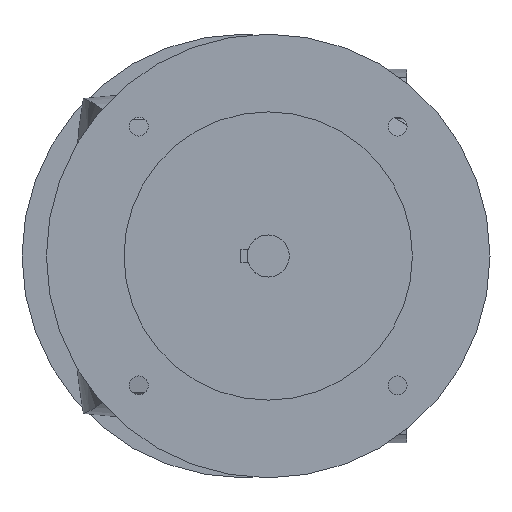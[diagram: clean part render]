
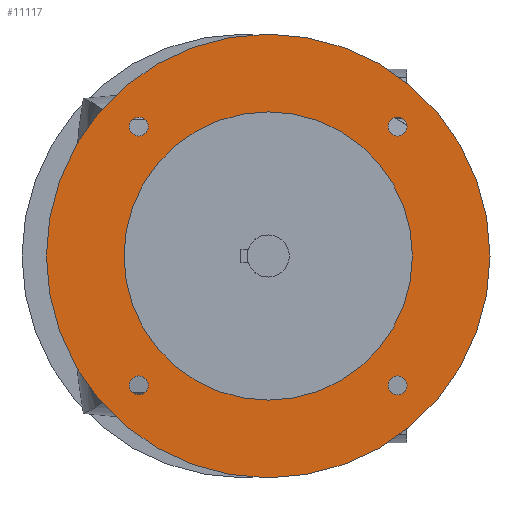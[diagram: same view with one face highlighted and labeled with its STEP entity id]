
A CAD part, left-side view. The second image highlights one B-rep face of the part: STEP entity #11117.
In plain terms, the highlighted planar face has unit normal (-1, 0, 0).
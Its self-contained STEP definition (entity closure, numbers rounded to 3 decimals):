
#2878=CARTESIAN_POINT('',(-124.5,137.336,-58.336));
#2879=DIRECTION('',(1.,0.,0.));
#2880=DIRECTION('',(0.,-1.,0.));
#2881=AXIS2_PLACEMENT_3D('',#2878,#2879,#2880);
#2883=CARTESIAN_POINT('',(-124.5,137.336,-58.336));
#2884=DIRECTION('',(1.,0.,0.));
#2885=DIRECTION('',(0.,1.,0.));
#2886=AXIS2_PLACEMENT_3D('',#2883,#2884,#2885);
#2888=CARTESIAN_POINT('',(-124.5,20.664,-58.336));
#2889=DIRECTION('',(1.,0.,0.));
#2890=DIRECTION('',(0.,-1.,0.));
#2891=AXIS2_PLACEMENT_3D('',#2888,#2889,#2890);
#2893=CARTESIAN_POINT('',(-124.5,20.664,-58.336));
#2894=DIRECTION('',(1.,0.,0.));
#2895=DIRECTION('',(0.,1.,0.));
#2896=AXIS2_PLACEMENT_3D('',#2893,#2894,#2895);
#2898=CARTESIAN_POINT('',(-124.5,20.664,58.336));
#2899=DIRECTION('',(1.,0.,0.));
#2900=DIRECTION('',(0.,-1.,0.));
#2901=AXIS2_PLACEMENT_3D('',#2898,#2899,#2900);
#2903=CARTESIAN_POINT('',(-124.5,20.664,58.336));
#2904=DIRECTION('',(1.,0.,0.));
#2905=DIRECTION('',(0.,1.,0.));
#2906=AXIS2_PLACEMENT_3D('',#2903,#2904,#2905);
#2908=CARTESIAN_POINT('',(-124.5,137.336,58.336));
#2909=DIRECTION('',(1.,0.,0.));
#2910=DIRECTION('',(0.,-1.,0.));
#2911=AXIS2_PLACEMENT_3D('',#2908,#2909,#2910);
#2913=CARTESIAN_POINT('',(-124.5,137.336,58.336));
#2914=DIRECTION('',(1.,0.,0.));
#2915=DIRECTION('',(0.,1.,0.));
#2916=AXIS2_PLACEMENT_3D('',#2913,#2914,#2915);
#2918=CARTESIAN_POINT('',(-124.5,79.,0.));
#2919=DIRECTION('',(1.,0.,0.));
#2920=DIRECTION('',(0.,-1.,0.));
#2921=AXIS2_PLACEMENT_3D('',#2918,#2919,#2920);
#2923=CARTESIAN_POINT('',(-124.5,79.,0.));
#2924=DIRECTION('',(1.,0.,0.));
#2925=DIRECTION('',(0.,1.,0.));
#2926=AXIS2_PLACEMENT_3D('',#2923,#2924,#2925);
#2928=CARTESIAN_POINT('',(-124.5,79.,0.));
#2929=DIRECTION('',(-1.,0.,0.));
#2930=DIRECTION('',(0.,-1.,0.));
#2931=AXIS2_PLACEMENT_3D('',#2928,#2929,#2930);
#2933=CARTESIAN_POINT('',(-124.5,79.,0.));
#2934=DIRECTION('',(-1.,0.,0.));
#2935=DIRECTION('',(0.,1.,0.));
#2936=AXIS2_PLACEMENT_3D('',#2933,#2934,#2935);
#6684=CARTESIAN_POINT('',(-124.5,179.,0.));
#6685=VERTEX_POINT('',#6684);
#6686=CARTESIAN_POINT('',(-124.5,-21.,0.));
#6687=VERTEX_POINT('',#6686);
#6688=CARTESIAN_POINT('',(-124.5,14.,0.));
#6689=CARTESIAN_POINT('',(-124.5,144.,0.));
#6690=VERTEX_POINT('',#6688);
#6691=VERTEX_POINT('',#6689);
#7154=CARTESIAN_POINT('',(-124.5,133.086,58.336));
#7155=CARTESIAN_POINT('',(-124.5,141.586,58.336));
#7156=VERTEX_POINT('',#7154);
#7157=VERTEX_POINT('',#7155);
#7158=CARTESIAN_POINT('',(-124.5,16.414,58.336));
#7159=CARTESIAN_POINT('',(-124.5,24.914,58.336));
#7160=VERTEX_POINT('',#7158);
#7161=VERTEX_POINT('',#7159);
#7162=CARTESIAN_POINT('',(-124.5,16.414,-58.336));
#7163=CARTESIAN_POINT('',(-124.5,24.914,-58.336));
#7164=VERTEX_POINT('',#7162);
#7165=VERTEX_POINT('',#7163);
#7166=CARTESIAN_POINT('',(-124.5,133.086,-58.336));
#7167=CARTESIAN_POINT('',(-124.5,141.586,-58.336));
#7168=VERTEX_POINT('',#7166);
#7169=VERTEX_POINT('',#7167);
#11077=CARTESIAN_POINT('',(-124.5,79.,0.));
#11078=DIRECTION('',(1.,0.,0.));
#11079=DIRECTION('',(0.,-1.,0.));
#11080=AXIS2_PLACEMENT_3D('',#11077,#11078,#11079);
#11081=PLANE('',#11080);
#11083=ORIENTED_EDGE('',*,*,#11082,.T.);
#11085=ORIENTED_EDGE('',*,*,#11084,.T.);
#11086=EDGE_LOOP('',(#11083,#11085));
#11087=FACE_OUTER_BOUND('',#11086,.F.);
#11088=ORIENTED_EDGE('',*,*,#11067,.F.);
#11090=ORIENTED_EDGE('',*,*,#11089,.F.);
#11091=EDGE_LOOP('',(#11088,#11090));
#11092=FACE_BOUND('',#11091,.F.);
#11094=ORIENTED_EDGE('',*,*,#11093,.F.);
#11096=ORIENTED_EDGE('',*,*,#11095,.F.);
#11097=EDGE_LOOP('',(#11094,#11096));
#11098=FACE_BOUND('',#11097,.F.);
#11100=ORIENTED_EDGE('',*,*,#11099,.F.);
#11102=ORIENTED_EDGE('',*,*,#11101,.F.);
#11103=EDGE_LOOP('',(#11100,#11102));
#11104=FACE_BOUND('',#11103,.F.);
#11106=ORIENTED_EDGE('',*,*,#11105,.F.);
#11108=ORIENTED_EDGE('',*,*,#11107,.F.);
#11109=EDGE_LOOP('',(#11106,#11108));
#11110=FACE_BOUND('',#11109,.F.);
#11112=ORIENTED_EDGE('',*,*,#11111,.T.);
#11114=ORIENTED_EDGE('',*,*,#11113,.T.);
#11115=EDGE_LOOP('',(#11112,#11114));
#11116=FACE_BOUND('',#11115,.F.);
#11117=ADVANCED_FACE('',(#11087,#11092,#11098,#11104,#11110,#11116),#11081,.F.);
#2882=CIRCLE('',#2881,4.25);
#2887=CIRCLE('',#2886,4.25);
#2892=CIRCLE('',#2891,4.25);
#2897=CIRCLE('',#2896,4.25);
#2902=CIRCLE('',#2901,4.25);
#2907=CIRCLE('',#2906,4.25);
#2912=CIRCLE('',#2911,4.25);
#2917=CIRCLE('',#2916,4.25);
#2922=CIRCLE('',#2921,100.);
#2927=CIRCLE('',#2926,100.);
#2932=CIRCLE('',#2931,65.);
#2937=CIRCLE('',#2936,65.);
#11067=EDGE_CURVE('',#7168,#7169,#2882,.T.);
#11082=EDGE_CURVE('',#6687,#6685,#2922,.T.);
#11084=EDGE_CURVE('',#6685,#6687,#2927,.T.);
#11089=EDGE_CURVE('',#7169,#7168,#2887,.T.);
#11093=EDGE_CURVE('',#7164,#7165,#2892,.T.);
#11095=EDGE_CURVE('',#7165,#7164,#2897,.T.);
#11099=EDGE_CURVE('',#7160,#7161,#2902,.T.);
#11101=EDGE_CURVE('',#7161,#7160,#2907,.T.);
#11105=EDGE_CURVE('',#7156,#7157,#2912,.T.);
#11107=EDGE_CURVE('',#7157,#7156,#2917,.T.);
#11111=EDGE_CURVE('',#6690,#6691,#2932,.T.);
#11113=EDGE_CURVE('',#6691,#6690,#2937,.T.);
